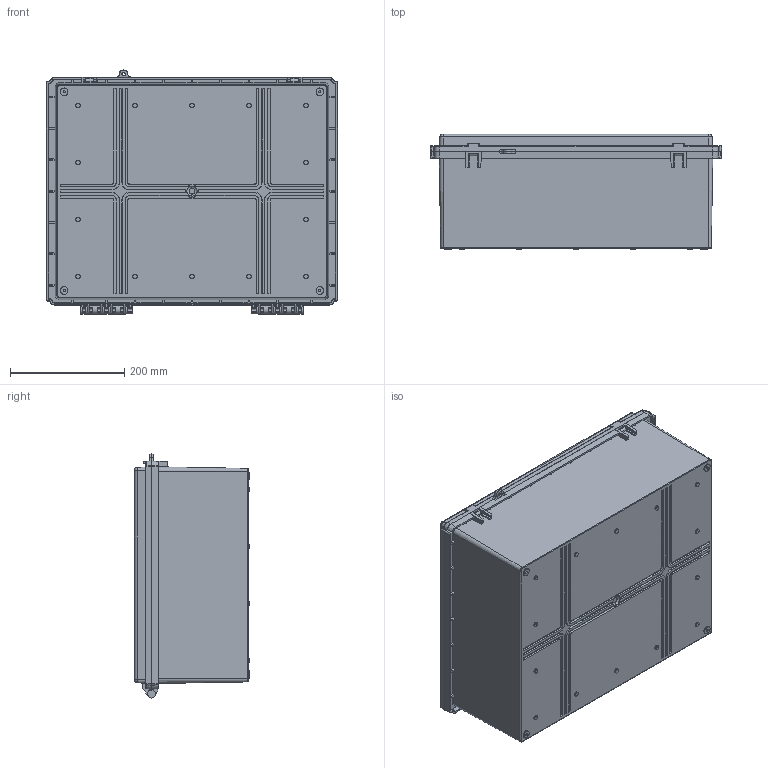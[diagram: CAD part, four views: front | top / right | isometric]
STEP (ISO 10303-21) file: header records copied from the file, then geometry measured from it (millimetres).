
FILE_DESCRIPTION (( 'STEP AP203' ), '1' );
FILE_NAME ('EC-4050.STEP', '2017-04-01T10:37:34', ( '' ), ( '' ), 'SwSTEP 2.0', 'SolidWorks 2015', '' );
FILE_SCHEMA (( 'CONFIG_CONTROL_DESIGN' ));
Length unit declared in the file: millimetre
Products named in the file (3): 40x50_taban; 40x50_kapak; EC-4050
Assembly tree (2 placements, depth 2):
  EC-4050
    40x50_taban
    40x50_kapak
Bounding box: 511 x 202 x 427.99 mm (x, y, z)
Volume: 2688234.5 mm3; surface area: 1574171.9 mm2
Topology: 2 solids, 2 shells, 906 faces, 2453 edges, 1596 vertices
Faces by surface type: plane 591, cone 161, cylinder 116, torus 26, bspline 12
Entity records: 29158 total; most frequent: CARTESIAN_POINT 5568, ORIENTED_EDGE 4906, DIRECTION 4831, EDGE_CURVE 2453, VECTOR 1753, LINE 1753, VERTEX_POINT 1596, AXIS2_PLACEMENT_3D 1539
